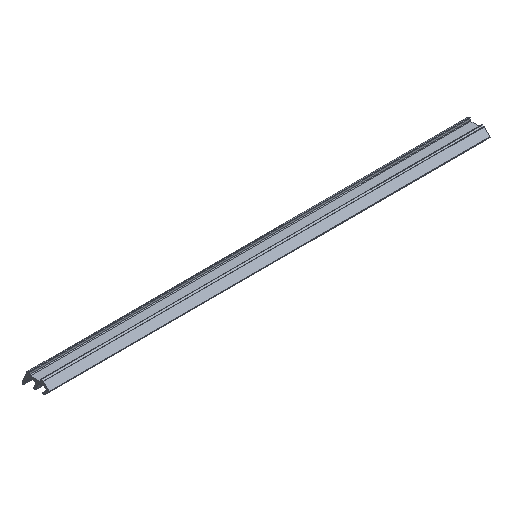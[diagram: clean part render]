
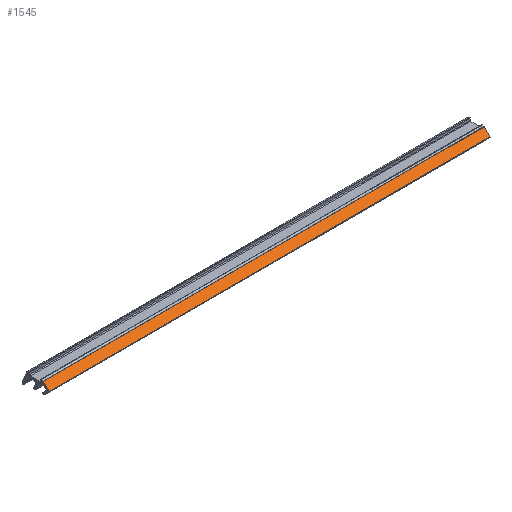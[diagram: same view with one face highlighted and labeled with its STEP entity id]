
A CAD part, isometric view. The second image highlights one B-rep face of the part: STEP entity #1545.
In plain terms, the highlighted planar face has unit normal (0, -0.707, 0.707).
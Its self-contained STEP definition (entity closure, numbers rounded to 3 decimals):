
#37 = LINE ( 'NONE', #816, #714 ) ;
#49 = EDGE_CURVE ( 'NONE', #1419, #169, #1699, .T. ) ;
#99 = DIRECTION ( 'NONE',  ( -1., 0., 0. ) ) ;
#169 = VERTEX_POINT ( 'NONE', #470 ) ;
#229 = EDGE_CURVE ( 'NONE', #790, #1144, #916, .T. ) ;
#261 = DIRECTION ( 'NONE',  ( 0., -0.707, -0.707 ) ) ;
#329 = CARTESIAN_POINT ( 'NONE',  ( 200., -2.677, 1.68 ) ) ;
#342 = VECTOR ( 'NONE', #99, 1000. ) ;
#363 = EDGE_CURVE ( 'NONE', #790, #1419, #37, .T. ) ;
#388 = LINE ( 'NONE', #1417, #611 ) ;
#409 = ORIENTED_EDGE ( 'NONE', *, *, #605, .T. ) ;
#470 = CARTESIAN_POINT ( 'NONE',  ( 0., -5.317, -0.96 ) ) ;
#531 = CARTESIAN_POINT ( 'NONE',  ( 200., -5.317, -0.96 ) ) ;
#547 = VECTOR ( 'NONE', #1692, 1000. ) ;
#550 = ORIENTED_EDGE ( 'NONE', *, *, #229, .T. ) ;
#574 = DIRECTION ( 'NONE',  ( 0., 0.707, -0.707 ) ) ;
#605 = EDGE_CURVE ( 'NONE', #1144, #169, #388, .T. ) ;
#611 = VECTOR ( 'NONE', #261, 1000. ) ;
#626 = EDGE_LOOP ( 'NONE', ( #409, #645, #1230, #550 ) ) ;
#645 = ORIENTED_EDGE ( 'NONE', *, *, #49, .F. ) ;
#714 = VECTOR ( 'NONE', #1604, 1000. ) ;
#790 = VERTEX_POINT ( 'NONE', #994 ) ;
#816 = CARTESIAN_POINT ( 'NONE',  ( 200., -2.677, 1.68 ) ) ;
#857 = DIRECTION ( 'NONE',  ( 0., 0.707, 0.707 ) ) ;
#916 = LINE ( 'NONE', #1426, #547 ) ;
#994 = CARTESIAN_POINT ( 'NONE',  ( 200., -2.677, 1.68 ) ) ;
#1065 = CARTESIAN_POINT ( 'NONE',  ( 200., -5.317, -0.96 ) ) ;
#1082 = FACE_OUTER_BOUND ( 'NONE', #626, .T. ) ;
#1133 = AXIS2_PLACEMENT_3D ( 'NONE', #329, #574, #857 ) ;
#1144 = VERTEX_POINT ( 'NONE', #1518 ) ;
#1213 = PLANE ( 'NONE',  #1133 ) ;
#1230 = ORIENTED_EDGE ( 'NONE', *, *, #363, .F. ) ;
#1417 = CARTESIAN_POINT ( 'NONE',  ( 0., -2.677, 1.68 ) ) ;
#1419 = VERTEX_POINT ( 'NONE', #1065 ) ;
#1426 = CARTESIAN_POINT ( 'NONE',  ( 200., -2.677, 1.68 ) ) ;
#1518 = CARTESIAN_POINT ( 'NONE',  ( 0., -2.677, 1.68 ) ) ;
#1545 = ADVANCED_FACE ( 'NONE', ( #1082 ), #1213, .F. ) ;
#1604 = DIRECTION ( 'NONE',  ( 0., -0.707, -0.707 ) ) ;
#1692 = DIRECTION ( 'NONE',  ( -1., 0., 0. ) ) ;
#1699 = LINE ( 'NONE', #531, #342 ) ;
